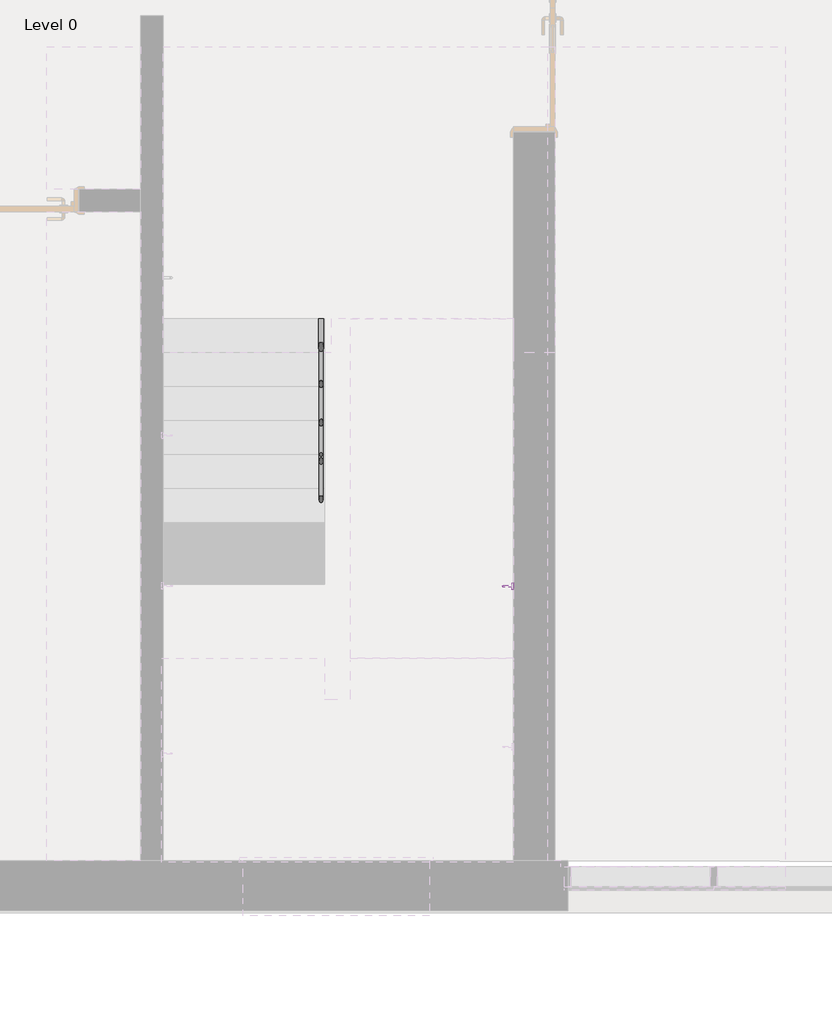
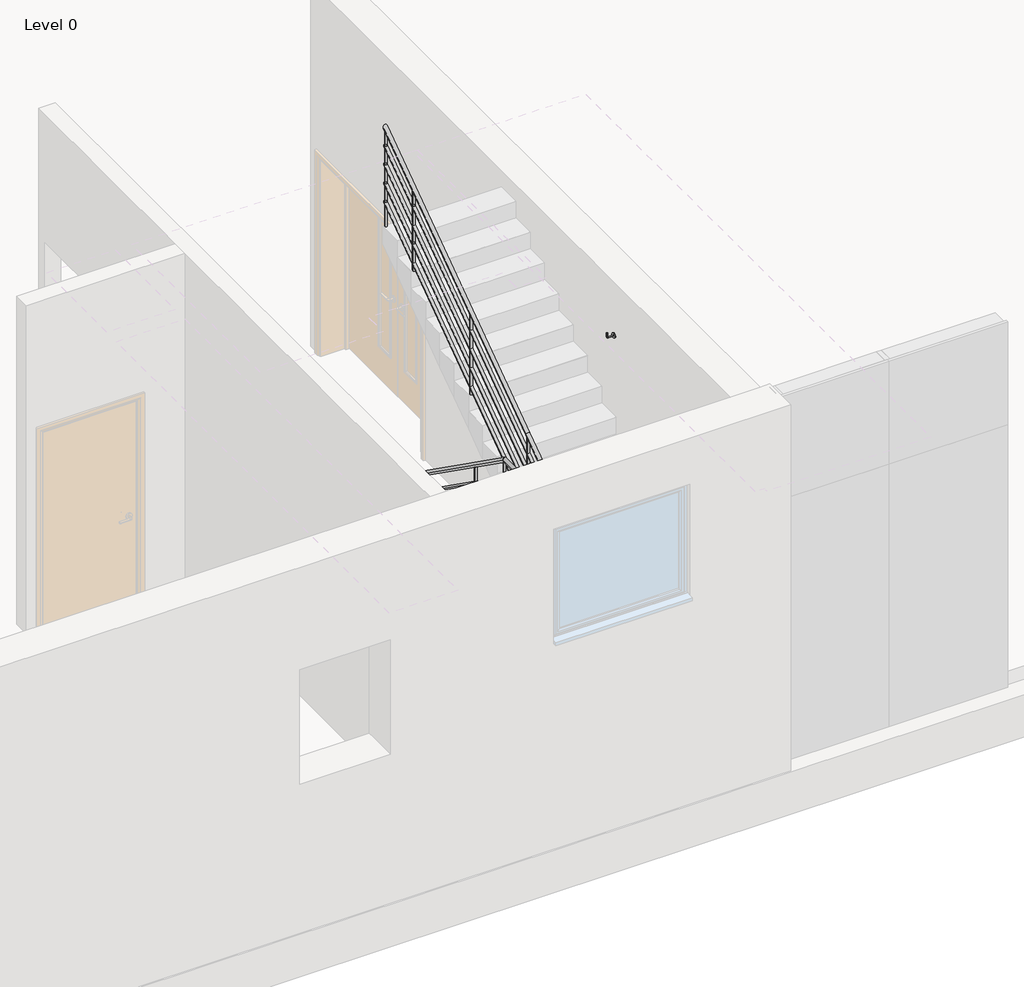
# One storey, part 11 of 14: 1 proxy, 1 railing.
"""IFC4 building model written with IfcOpenShell, lengths in millimetres."""

from ifc_helpers import new_model, si_unit, point, frame, frame_2d, origin, place, context, project, spatial, circle_curve, ellipse_curve, trimmed, segment, composite_curve, outline, extrude, transform, mapped, element, save
from ifc_brep_helpers import plane_surface, cylinder_surface, advanced_brep
from components import support_metal_circular_support_metal_circular_016e83f0

model = new_model("IFC4")

# Units and contexts
model_context = context("Model", 3, world=origin())
ifc_project = project(units=[si_unit("LENGTHUNIT", "METRE", prefix="MILLI")], contexts=[model_context])

# Site, building, storey
site = spatial("IfcSite", under=ifc_project)
building = spatial("IfcBuilding", under=site)
storey = spatial("IfcBuildingStorey", under=building, Name="Level 0", Elevation=0.0)

# Proxy
placement = place(None, origin())
support_metal_circular_support_metal_circular_shape = support_metal_circular_support_metal_circular_016e83f0(model_context)
element("IfcBuildingElementProxy", 1, Name="Support - Metal - Circular : Support - Metal - Circular", ObjectType="Support - Metal - Circular : Support - Metal - Circular", at=placement, inside=storey, context=model_context, shape_type="MappedRepresentation", body=[
    mapped(support_metal_circular_support_metal_circular_shape, transform((7761.8000023, 2330.7111848, 3386.0952038), x_axis=(0.0, -1.0, 0.0), y_axis=(1.0, 0.0, 0.0), z_axis=(0.0, 0.0, 1.0))),
])

# Railing
element("IfcRailing", 2, ObjectType="900mm_Pipe", at=placement, inside=storey, context=model_context, shape_type="SolidModel", body=[
    advanced_brep(
    [(6401.8000024, 4300.0, 1052.7548977), (6441.8000024, 4300.0, 1052.7548977), (6401.8000024, 1793.6287019, 2830.0), (6441.8000024, 1793.6287019, 2830.0), (6401.8000024, 1454.6, 2830.0), (6441.8000024, 1494.6, 2830.0), (6682.6000025, 1454.6, 2830.0), (6642.6000025, 1494.6, 2830.0), (6682.6000025, 1556.3712981, 2830.0), (6642.6000025, 1556.3712981, 2830.0), (6682.6000025, 1811.5685755, 3010.9580695), (6642.6000025, 1811.5685755, 3010.9580695), (6682.6000025, 4300.0, 4775.4821704), (6642.6000025, 4300.0, 4775.4821704)],
    [
        (0, 1, ellipse_curve(frame((6421.8000024, 4300.0, 1052.7548977), z_axis=(0.0, 1.0, 0.0), x_axis=(0.0, 0.0, -1.0)), 24.5178296, 20.0)),
        (1, 0, ellipse_curve(frame((6421.8000024, 4300.0, 1052.7548977), z_axis=(0.0, 1.0, 0.0), x_axis=(0.0, 0.0, -1.0)), 24.5178296, 20.0)),
        (0, 2),
        (2, 3, ellipse_curve(frame((6421.8000024, 1793.6287019, 2830.0), z_axis=(0.0, 0.9528202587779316, -0.30353509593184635), x_axis=(0.0, -0.30353509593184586, -0.952820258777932)), 20.9903178, 20.0)),
        (3, 1),
        (3, 2, ellipse_curve(frame((6421.8000024, 1793.6287019, 2830.0), z_axis=(0.0, 0.9528202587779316, -0.30353509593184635), x_axis=(0.0, -0.30353509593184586, -0.952820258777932)), 20.9903178, 20.0)),
        (2, 4),
        (4, 5, ellipse_curve(frame((6421.8000024, 1474.6, 2830.0), z_axis=(-0.7071067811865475, 0.7071067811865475, 0.0), x_axis=(0.7071067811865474, 0.7071067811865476, 0.0)), 28.2842712, 20.0)),
        (5, 3),
        (5, 4, ellipse_curve(frame((6421.8000024, 1474.6, 2830.0), z_axis=(-0.7071067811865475, 0.7071067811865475, 0.0), x_axis=(0.7071067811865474, 0.7071067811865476, 0.0)), 28.2842712, 20.0)),
        (4, 6),
        (6, 7, ellipse_curve(frame((6662.6000025, 1474.6, 2830.0), z_axis=(-0.7071067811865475, -0.7071067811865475, 0.0), x_axis=(-0.7071067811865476, 0.7071067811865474, 0.0)), 28.2842712, 20.0)),
        (7, 5),
        (7, 6, ellipse_curve(frame((6662.6000025, 1474.6, 2830.0), z_axis=(-0.7071067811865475, -0.7071067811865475, 0.0), x_axis=(-0.7071067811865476, 0.7071067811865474, 0.0)), 28.2842712, 20.0)),
        (6, 8),
        (8, 9, ellipse_curve(frame((6662.6000025, 1556.3712981, 2830.0), z_axis=(0.0, -0.9528202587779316, -0.30353509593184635), x_axis=(0.0, -0.3035350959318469, 0.9528202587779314)), 20.9903178, 20.0)),
        (9, 7),
        (9, 8, ellipse_curve(frame((6662.6000025, 1556.3712981, 2830.0), z_axis=(0.0, -0.9528202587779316, -0.30353509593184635), x_axis=(0.0, -0.3035350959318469, 0.9528202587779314)), 20.9903178, 20.0)),
        (8, 10),
        (10, 11, circle_curve(frame((6662.6000025, 1811.5685755, 3010.9580695), z_axis=(0.0, -0.8157328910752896, -0.5784287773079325), x_axis=(-1.0, 0.0, 0.0)), 20.0)),
        (11, 9),
        (11, 10, circle_curve(frame((6662.6000025, 1811.5685755, 3010.9580695), z_axis=(0.0, -0.8157328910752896, -0.5784287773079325), x_axis=(-1.0, 0.0, 0.0)), 20.0)),
        (12, 13, ellipse_curve(frame((6662.6000025, 4300.0, 4775.4821704), z_axis=(0.0, 1.0, 0.0), x_axis=(0.0, 0.0, -1.0)), 24.5178296, 20.0)),
        (13, 12, ellipse_curve(frame((6662.6000025, 4300.0, 4775.4821704), z_axis=(0.0, 1.0, 0.0), x_axis=(0.0, 0.0, -1.0)), 24.5178296, 20.0)),
        (10, 12),
        (13, 11),
    ],
    [
        plane_surface(frame((6421.8000024, 4300.0, 1077.2727273), z_axis=(0.0, 1.0, 0.0), x_axis=(0.0, 0.0, -1.0))),
        cylinder_surface(frame((6421.8000024, 4288.4314245, 1060.9580695), z_axis=(0.0, 0.8157328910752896, -0.5784287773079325), x_axis=(1.0, 0.0, 0.0)), 20.0),
        cylinder_surface(frame((6421.8000024, 1800.0, 2830.0), z_axis=(0.0, 1.0, 0.0), x_axis=(1.0, 0.0, 0.0)), 20.0),
        cylinder_surface(frame((6421.8000024, 1474.6, 2830.0), z_axis=(-1.0, 0.0, 0.0), x_axis=(0.0, 1.0, 0.0)), 20.0),
        cylinder_surface(frame((6662.6000025, 1474.6, 2830.0), z_axis=(0.0, -1.0, 0.0), x_axis=(-1.0, 0.0, 0.0)), 20.0),
        cylinder_surface(frame((6662.6000025, 1561.5685755, 2833.6853422), z_axis=(0.0, -0.8157328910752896, -0.5784287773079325), x_axis=(-1.0, 0.0, 0.0)), 20.0),
        plane_surface(frame((6662.6000025, 4300.0, 4800.0), z_axis=(0.0, 1.0, 0.0), x_axis=(0.0, 0.0, 1.0))),
        cylinder_surface(frame((6662.6000025, 1811.5685755, 3010.9580695), z_axis=(0.0, -0.8157328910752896, -0.5784287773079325), x_axis=(-1.0, 0.0, 0.0)), 20.0),
    ],
    [
        (0, [[1, 2]]),
        (1, [[-1, 3, 4, 5]]),
        (1, [[-2, -5, 6, -3]]),
        (2, [[-4, 7, 8, 9]]),
        (2, [[-6, -9, 10, -7]]),
        (3, [[-8, 11, 12, 13]]),
        (3, [[-10, -13, 14, -11]]),
        (4, [[-12, 15, 16, 17]]),
        (4, [[-14, -17, 18, -15]]),
        (5, [[-16, 19, 20, 21]]),
        (5, [[-18, -21, 22, -19]]),
        (6, [[23, 24]]),
        (7, [[-20, 25, -24, 26]]),
        (7, [[-22, -26, -23, -25]]),
    ],
),
    advanced_brep(
    [(6406.8000024, 4300.0, 858.8843551), (6436.8000024, 4300.0, 858.8843551), (6406.8000024, 1800.0, 2631.6116278), (6436.8000024, 1800.0, 2631.6116278)],
    [
        (0, 1, ellipse_curve(frame((6421.8000024, 4300.0, 858.8843551), z_axis=(0.0, 1.0, 0.0), x_axis=(0.0, 0.0, -1.0)), 18.3883722, 15.0)),
        (1, 0, ellipse_curve(frame((6421.8000024, 4300.0, 858.8843551), z_axis=(0.0, 1.0, 0.0), x_axis=(0.0, 0.0, -1.0)), 18.3883722, 15.0)),
        (2, 3, ellipse_curve(frame((6421.8000024, 1800.0, 2631.6116278), z_axis=(0.0, -1.0, 0.0), x_axis=(0.0, 0.0, -1.0)), 18.3883722, 15.0)),
        (3, 2, ellipse_curve(frame((6421.8000024, 1800.0, 2631.6116278), z_axis=(0.0, -1.0, 0.0), x_axis=(0.0, 0.0, -1.0)), 18.3883722, 15.0)),
        (0, 2),
        (3, 1),
    ],
    [
        plane_surface(frame((6421.8000024, 4300.0, 877.2727273), z_axis=(0.0, 1.0, 0.0), x_axis=(0.0, 0.0, -1.0))),
        plane_surface(frame((6421.8000024, 1800.0, 2650.0), z_axis=(0.0, -1.0, 0.0), x_axis=(0.0, 0.0, -1.0))),
        cylinder_surface(frame((6421.8000024, 4291.3235683, 865.0367339), z_axis=(0.0, 0.8157328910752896, -0.5784287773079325), x_axis=(1.0, 0.0, 0.0)), 15.0),
    ],
    [
        (0, [[1, 2]]),
        (1, [[3, 4]]),
        (2, [[-1, 5, -4, 6]]),
        (2, [[-2, -6, -3, -5]]),
    ],
),
    advanced_brep(
    [(6406.8000024, 1800.0, 2635.0), (6436.8000024, 1800.0, 2635.0), (6406.8000024, 1489.6, 2635.0), (6436.8000024, 1489.6, 2635.0)],
    [
        (0, 1, circle_curve(frame((6421.8000024, 1800.0, 2635.0), z_axis=(0.0, 1.0, 0.0), x_axis=(1.0, 0.0, 0.0)), 15.0)),
        (1, 0, circle_curve(frame((6421.8000024, 1800.0, 2635.0), z_axis=(0.0, 1.0, 0.0), x_axis=(1.0, 0.0, 0.0)), 15.0)),
        (2, 3, circle_curve(frame((6421.8000024, 1489.6, 2635.0), z_axis=(0.0, -1.0, 0.0), x_axis=(1.0, 0.0, 0.0)), 15.0)),
        (3, 2, circle_curve(frame((6421.8000024, 1489.6, 2635.0), z_axis=(0.0, -1.0, 0.0), x_axis=(1.0, 0.0, 0.0)), 15.0)),
        (0, 2),
        (3, 1),
    ],
    [
        plane_surface(frame((6421.8000024, 1800.0, 2650.0), z_axis=(0.0, 1.0, 0.0), x_axis=(0.0, 0.0, -1.0))),
        plane_surface(frame((6421.8000024, 1489.6, 2650.0), z_axis=(0.0, -1.0, 0.0), x_axis=(0.0, 0.0, -1.0))),
        cylinder_surface(frame((6421.8000024, 1800.0, 2635.0), z_axis=(0.0, 1.0, 0.0), x_axis=(1.0, 0.0, 0.0)), 15.0),
    ],
    [
        (0, [[1, 2]]),
        (1, [[3, 4]]),
        (2, [[-1, 5, -4, 6]]),
        (2, [[-2, -6, -3, -5]]),
    ],
),
    advanced_brep(
    [(6406.8000024, 1459.6, 2635.0), (6406.8000024, 1489.6, 2635.0), (6647.6000025, 1459.6, 2635.0), (6647.6000025, 1489.6, 2635.0)],
    [
        (0, 1, circle_curve(frame((6406.8000024, 1474.6, 2635.0), z_axis=(-1.0, 0.0, 0.0), x_axis=(0.0, 1.0, 0.0)), 15.0)),
        (1, 0, circle_curve(frame((6406.8000024, 1474.6, 2635.0), z_axis=(-1.0, 0.0, 0.0), x_axis=(0.0, 1.0, 0.0)), 15.0)),
        (2, 3, circle_curve(frame((6647.6000025, 1474.6, 2635.0), z_axis=(1.0, 0.0, 0.0), x_axis=(0.0, 1.0, 0.0)), 15.0)),
        (3, 2, circle_curve(frame((6647.6000025, 1474.6, 2635.0), z_axis=(1.0, 0.0, 0.0), x_axis=(0.0, 1.0, 0.0)), 15.0)),
        (0, 2),
        (3, 1),
    ],
    [
        plane_surface(frame((6406.8000024, 1474.6, 2650.0), z_axis=(-1.0, 0.0, 0.0), x_axis=(0.0, 1.0, 0.0))),
        plane_surface(frame((6647.6000025, 1474.6, 2650.0), z_axis=(1.0, 0.0, 0.0), x_axis=(0.0, 1.0, 0.0))),
        cylinder_surface(frame((6406.8000024, 1474.6, 2635.0), z_axis=(-1.0, 0.0, 0.0), x_axis=(0.0, 1.0, 0.0)), 15.0),
    ],
    [
        (0, [[1, 2]]),
        (1, [[3, 4]]),
        (2, [[-1, 5, -4, 6]]),
        (2, [[-2, -6, -3, -5]]),
    ],
),
    advanced_brep(
    [(6677.6000025, 1459.6, 2635.0), (6647.6000025, 1459.6, 2635.0), (6677.6000025, 1554.7784736, 2635.0), (6647.6000025, 1554.7784736, 2635.0), (6677.6000025, 1800.0, 2808.8843551), (6647.6000025, 1800.0, 2808.8843551)],
    [
        (0, 1, circle_curve(frame((6662.6000025, 1459.6, 2635.0), z_axis=(0.0, -1.0, 0.0), x_axis=(-1.0, 0.0, 0.0)), 15.0)),
        (1, 0, circle_curve(frame((6662.6000025, 1459.6, 2635.0), z_axis=(0.0, -1.0, 0.0), x_axis=(-1.0, 0.0, 0.0)), 15.0)),
        (0, 2),
        (2, 3, ellipse_curve(frame((6662.6000025, 1554.7784736, 2635.0), z_axis=(0.0, -0.9528202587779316, -0.3035350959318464), x_axis=(0.0, -0.3035350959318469, 0.9528202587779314)), 15.7427383, 15.0)),
        (3, 1),
        (3, 2, ellipse_curve(frame((6662.6000025, 1554.7784736, 2635.0), z_axis=(0.0, -0.9528202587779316, -0.3035350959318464), x_axis=(0.0, -0.3035350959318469, 0.9528202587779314)), 15.7427383, 15.0)),
        (4, 5, ellipse_curve(frame((6662.6000025, 1800.0, 2808.8843551), z_axis=(0.0, 1.0, 0.0), x_axis=(0.0, 0.0, -1.0)), 18.3883722, 15.0)),
        (5, 4, ellipse_curve(frame((6662.6000025, 1800.0, 2808.8843551), z_axis=(0.0, 1.0, 0.0), x_axis=(0.0, 0.0, -1.0)), 18.3883722, 15.0)),
        (2, 4),
        (5, 3),
    ],
    [
        plane_surface(frame((6662.6000025, 1459.6, 2650.0), z_axis=(0.0, -1.0, 0.0), x_axis=(0.0, 0.0, 1.0))),
        cylinder_surface(frame((6662.6000025, 1459.6, 2635.0), z_axis=(0.0, -1.0, 0.0), x_axis=(-1.0, 0.0, 0.0)), 15.0),
        plane_surface(frame((6662.6000025, 1800.0, 2827.2727273), z_axis=(0.0, 1.0, 0.0), x_axis=(0.0, 0.0, 1.0))),
        cylinder_surface(frame((6662.6000025, 1558.6764317, 2637.7640066), z_axis=(0.0, -0.8157328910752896, -0.5784287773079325), x_axis=(-1.0, 0.0, 0.0)), 15.0),
    ],
    [
        (0, [[1, 2]]),
        (1, [[-1, 3, 4, 5]]),
        (1, [[-2, -5, 6, -3]]),
        (2, [[7, 8]]),
        (3, [[-4, 9, -8, 10]]),
        (3, [[-6, -10, -7, -9]]),
    ],
),
    advanced_brep(
    [(6677.6000025, 1800.0, 2808.8843551), (6647.6000025, 1800.0, 2808.8843551), (6677.6000025, 4300.0, 4581.6116278), (6647.6000025, 4300.0, 4581.6116278)],
    [
        (0, 1, ellipse_curve(frame((6662.6000025, 1800.0, 2808.8843551), z_axis=(0.0, -1.0, 0.0), x_axis=(0.0, 0.0, -1.0)), 18.3883722, 15.0)),
        (1, 0, ellipse_curve(frame((6662.6000025, 1800.0, 2808.8843551), z_axis=(0.0, -1.0, 0.0), x_axis=(0.0, 0.0, -1.0)), 18.3883722, 15.0)),
        (2, 3, ellipse_curve(frame((6662.6000025, 4300.0, 4581.6116278), z_axis=(0.0, 1.0, 0.0), x_axis=(0.0, 0.0, -1.0)), 18.3883722, 15.0)),
        (3, 2, ellipse_curve(frame((6662.6000025, 4300.0, 4581.6116278), z_axis=(0.0, 1.0, 0.0), x_axis=(0.0, 0.0, -1.0)), 18.3883722, 15.0)),
        (0, 2),
        (3, 1),
    ],
    [
        plane_surface(frame((6662.6000025, 1800.0, 2827.2727273), z_axis=(0.0, -1.0, 0.0), x_axis=(0.0, 0.0, 1.0))),
        plane_surface(frame((6662.6000025, 4300.0, 4600.0), z_axis=(0.0, 1.0, 0.0), x_axis=(0.0, 0.0, 1.0))),
        cylinder_surface(frame((6662.6000025, 1808.6764317, 2815.0367339), z_axis=(0.0, -0.8157328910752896, -0.5784287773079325), x_axis=(-1.0, 0.0, 0.0)), 15.0),
    ],
    [
        (0, [[1, 2]]),
        (1, [[3, 4]]),
        (2, [[-1, 5, -4, 6]]),
        (2, [[-2, -6, -3, -5]]),
    ],
),
    advanced_brep(
    [(6406.8000024, 4300.0, 658.8843551), (6436.8000024, 4300.0, 658.8843551), (6406.8000024, 1800.0, 2431.6116278), (6436.8000024, 1800.0, 2431.6116278)],
    [
        (0, 1, ellipse_curve(frame((6421.8000024, 4300.0, 658.8843551), z_axis=(0.0, 1.0, 0.0), x_axis=(0.0, 0.0, -1.0)), 18.3883722, 15.0)),
        (1, 0, ellipse_curve(frame((6421.8000024, 4300.0, 658.8843551), z_axis=(0.0, 1.0, 0.0), x_axis=(0.0, 0.0, -1.0)), 18.3883722, 15.0)),
        (2, 3, ellipse_curve(frame((6421.8000024, 1800.0, 2431.6116278), z_axis=(0.0, -1.0, 0.0), x_axis=(0.0, 0.0, -1.0)), 18.3883722, 15.0)),
        (3, 2, ellipse_curve(frame((6421.8000024, 1800.0, 2431.6116278), z_axis=(0.0, -1.0, 0.0), x_axis=(0.0, 0.0, -1.0)), 18.3883722, 15.0)),
        (0, 2),
        (3, 1),
    ],
    [
        plane_surface(frame((6421.8000024, 4300.0, 677.2727273), z_axis=(0.0, 1.0, 0.0), x_axis=(0.0, 0.0, -1.0))),
        plane_surface(frame((6421.8000024, 1800.0, 2450.0), z_axis=(0.0, -1.0, 0.0), x_axis=(0.0, 0.0, -1.0))),
        cylinder_surface(frame((6421.8000024, 4291.3235683, 665.0367339), z_axis=(0.0, 0.8157328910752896, -0.5784287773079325), x_axis=(1.0, 0.0, 0.0)), 15.0),
    ],
    [
        (0, [[1, 2]]),
        (1, [[3, 4]]),
        (2, [[-1, 5, -4, 6]]),
        (2, [[-2, -6, -3, -5]]),
    ],
),
    advanced_brep(
    [(6406.8000024, 1800.0, 2435.0), (6436.8000024, 1800.0, 2435.0), (6406.8000024, 1489.6, 2435.0), (6436.8000024, 1489.6, 2435.0)],
    [
        (0, 1, circle_curve(frame((6421.8000024, 1800.0, 2435.0), z_axis=(0.0, 1.0, 0.0), x_axis=(1.0, 0.0, 0.0)), 15.0)),
        (1, 0, circle_curve(frame((6421.8000024, 1800.0, 2435.0), z_axis=(0.0, 1.0, 0.0), x_axis=(1.0, 0.0, 0.0)), 15.0)),
        (2, 3, circle_curve(frame((6421.8000024, 1489.6, 2435.0), z_axis=(0.0, -1.0, 0.0), x_axis=(1.0, 0.0, 0.0)), 15.0)),
        (3, 2, circle_curve(frame((6421.8000024, 1489.6, 2435.0), z_axis=(0.0, -1.0, 0.0), x_axis=(1.0, 0.0, 0.0)), 15.0)),
        (0, 2),
        (3, 1),
    ],
    [
        plane_surface(frame((6421.8000024, 1800.0, 2450.0), z_axis=(0.0, 1.0, 0.0), x_axis=(0.0, 0.0, -1.0))),
        plane_surface(frame((6421.8000024, 1489.6, 2450.0), z_axis=(0.0, -1.0, 0.0), x_axis=(0.0, 0.0, -1.0))),
        cylinder_surface(frame((6421.8000024, 1800.0, 2435.0), z_axis=(0.0, 1.0, 0.0), x_axis=(1.0, 0.0, 0.0)), 15.0),
    ],
    [
        (0, [[1, 2]]),
        (1, [[3, 4]]),
        (2, [[-1, 5, -4, 6]]),
        (2, [[-2, -6, -3, -5]]),
    ],
),
    advanced_brep(
    [(6406.8000024, 1459.6, 2435.0), (6406.8000024, 1489.6, 2435.0), (6647.6000025, 1459.6, 2435.0), (6647.6000025, 1489.6, 2435.0)],
    [
        (0, 1, circle_curve(frame((6406.8000024, 1474.6, 2435.0), z_axis=(-1.0, 0.0, 0.0), x_axis=(0.0, 1.0, 0.0)), 15.0)),
        (1, 0, circle_curve(frame((6406.8000024, 1474.6, 2435.0), z_axis=(-1.0, 0.0, 0.0), x_axis=(0.0, 1.0, 0.0)), 15.0)),
        (2, 3, circle_curve(frame((6647.6000025, 1474.6, 2435.0), z_axis=(1.0, 0.0, 0.0), x_axis=(0.0, 1.0, 0.0)), 15.0)),
        (3, 2, circle_curve(frame((6647.6000025, 1474.6, 2435.0), z_axis=(1.0, 0.0, 0.0), x_axis=(0.0, 1.0, 0.0)), 15.0)),
        (0, 2),
        (3, 1),
    ],
    [
        plane_surface(frame((6406.8000024, 1474.6, 2450.0), z_axis=(-1.0, 0.0, 0.0), x_axis=(0.0, 1.0, 0.0))),
        plane_surface(frame((6647.6000025, 1474.6, 2450.0), z_axis=(1.0, 0.0, 0.0), x_axis=(0.0, 1.0, 0.0))),
        cylinder_surface(frame((6406.8000024, 1474.6, 2435.0), z_axis=(-1.0, 0.0, 0.0), x_axis=(0.0, 1.0, 0.0)), 15.0),
    ],
    [
        (0, [[1, 2]]),
        (1, [[3, 4]]),
        (2, [[-1, 5, -4, 6]]),
        (2, [[-2, -6, -3, -5]]),
    ],
),
    advanced_brep(
    [(6677.6000025, 1459.6, 2435.0), (6647.6000025, 1459.6, 2435.0), (6677.6000025, 1554.7784736, 2435.0), (6647.6000025, 1554.7784736, 2435.0), (6677.6000025, 1800.0, 2608.8843551), (6647.6000025, 1800.0, 2608.8843551)],
    [
        (0, 1, circle_curve(frame((6662.6000025, 1459.6, 2435.0), z_axis=(0.0, -1.0, 0.0), x_axis=(-1.0, 0.0, 0.0)), 15.0)),
        (1, 0, circle_curve(frame((6662.6000025, 1459.6, 2435.0), z_axis=(0.0, -1.0, 0.0), x_axis=(-1.0, 0.0, 0.0)), 15.0)),
        (0, 2),
        (2, 3, ellipse_curve(frame((6662.6000025, 1554.7784736, 2435.0), z_axis=(0.0, -0.9528202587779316, -0.3035350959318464), x_axis=(0.0, -0.3035350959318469, 0.9528202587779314)), 15.7427383, 15.0)),
        (3, 1),
        (3, 2, ellipse_curve(frame((6662.6000025, 1554.7784736, 2435.0), z_axis=(0.0, -0.9528202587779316, -0.3035350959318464), x_axis=(0.0, -0.3035350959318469, 0.9528202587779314)), 15.7427383, 15.0)),
        (4, 5, ellipse_curve(frame((6662.6000025, 1800.0, 2608.8843551), z_axis=(0.0, 1.0, 0.0), x_axis=(0.0, 0.0, -1.0)), 18.3883722, 15.0)),
        (5, 4, ellipse_curve(frame((6662.6000025, 1800.0, 2608.8843551), z_axis=(0.0, 1.0, 0.0), x_axis=(0.0, 0.0, -1.0)), 18.3883722, 15.0)),
        (2, 4),
        (5, 3),
    ],
    [
        plane_surface(frame((6662.6000025, 1459.6, 2450.0), z_axis=(0.0, -1.0, 0.0), x_axis=(0.0, 0.0, 1.0))),
        cylinder_surface(frame((6662.6000025, 1459.6, 2435.0), z_axis=(0.0, -1.0, 0.0), x_axis=(-1.0, 0.0, 0.0)), 15.0),
        plane_surface(frame((6662.6000025, 1800.0, 2627.2727273), z_axis=(0.0, 1.0, 0.0), x_axis=(0.0, 0.0, 1.0))),
        cylinder_surface(frame((6662.6000025, 1558.6764317, 2437.7640066), z_axis=(0.0, -0.8157328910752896, -0.5784287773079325), x_axis=(-1.0, 0.0, 0.0)), 15.0),
    ],
    [
        (0, [[1, 2]]),
        (1, [[-1, 3, 4, 5]]),
        (1, [[-2, -5, 6, -3]]),
        (2, [[7, 8]]),
        (3, [[-4, 9, -8, 10]]),
        (3, [[-6, -10, -7, -9]]),
    ],
),
    advanced_brep(
    [(6677.6000025, 1800.0, 2608.8843551), (6647.6000025, 1800.0, 2608.8843551), (6677.6000025, 4300.0, 4381.6116278), (6647.6000025, 4300.0, 4381.6116278)],
    [
        (0, 1, ellipse_curve(frame((6662.6000025, 1800.0, 2608.8843551), z_axis=(0.0, -1.0, 0.0), x_axis=(0.0, 0.0, -1.0)), 18.3883722, 15.0)),
        (1, 0, ellipse_curve(frame((6662.6000025, 1800.0, 2608.8843551), z_axis=(0.0, -1.0, 0.0), x_axis=(0.0, 0.0, -1.0)), 18.3883722, 15.0)),
        (2, 3, ellipse_curve(frame((6662.6000025, 4300.0, 4381.6116278), z_axis=(0.0, 1.0, 0.0), x_axis=(0.0, 0.0, -1.0)), 18.3883722, 15.0)),
        (3, 2, ellipse_curve(frame((6662.6000025, 4300.0, 4381.6116278), z_axis=(0.0, 1.0, 0.0), x_axis=(0.0, 0.0, -1.0)), 18.3883722, 15.0)),
        (0, 2),
        (3, 1),
    ],
    [
        plane_surface(frame((6662.6000025, 1800.0, 2627.2727273), z_axis=(0.0, -1.0, 0.0), x_axis=(0.0, 0.0, 1.0))),
        plane_surface(frame((6662.6000025, 4300.0, 4400.0), z_axis=(0.0, 1.0, 0.0), x_axis=(0.0, 0.0, 1.0))),
        cylinder_surface(frame((6662.6000025, 1808.6764317, 2615.0367339), z_axis=(0.0, -0.8157328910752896, -0.5784287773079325), x_axis=(-1.0, 0.0, 0.0)), 15.0),
    ],
    [
        (0, [[1, 2]]),
        (1, [[3, 4]]),
        (2, [[-1, 5, -4, 6]]),
        (2, [[-2, -6, -3, -5]]),
    ],
),
    advanced_brep(
    [(6406.8000024, 4300.0, 458.8843551), (6436.8000024, 4300.0, 458.8843551), (6406.8000024, 1800.0, 2231.6116278), (6436.8000024, 1800.0, 2231.6116278)],
    [
        (0, 1, ellipse_curve(frame((6421.8000024, 4300.0, 458.8843551), z_axis=(0.0, 1.0, 0.0), x_axis=(0.0, 0.0, -1.0)), 18.3883722, 15.0)),
        (1, 0, ellipse_curve(frame((6421.8000024, 4300.0, 458.8843551), z_axis=(0.0, 1.0, 0.0), x_axis=(0.0, 0.0, -1.0)), 18.3883722, 15.0)),
        (2, 3, ellipse_curve(frame((6421.8000024, 1800.0, 2231.6116278), z_axis=(0.0, -1.0, 0.0), x_axis=(0.0, 0.0, -1.0)), 18.3883722, 15.0)),
        (3, 2, ellipse_curve(frame((6421.8000024, 1800.0, 2231.6116278), z_axis=(0.0, -1.0, 0.0), x_axis=(0.0, 0.0, -1.0)), 18.3883722, 15.0)),
        (0, 2),
        (3, 1),
    ],
    [
        plane_surface(frame((6421.8000024, 4300.0, 477.2727273), z_axis=(0.0, 1.0, 0.0), x_axis=(0.0, 0.0, -1.0))),
        plane_surface(frame((6421.8000024, 1800.0, 2250.0), z_axis=(0.0, -1.0, 0.0), x_axis=(0.0, 0.0, -1.0))),
        cylinder_surface(frame((6421.8000024, 4291.3235683, 465.0367339), z_axis=(0.0, 0.8157328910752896, -0.5784287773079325), x_axis=(1.0, 0.0, 0.0)), 15.0),
    ],
    [
        (0, [[1, 2]]),
        (1, [[3, 4]]),
        (2, [[-1, 5, -4, 6]]),
        (2, [[-2, -6, -3, -5]]),
    ],
),
    advanced_brep(
    [(6406.8000024, 1800.0, 2235.0), (6436.8000024, 1800.0, 2235.0), (6406.8000024, 1489.6, 2235.0), (6436.8000024, 1489.6, 2235.0)],
    [
        (0, 1, circle_curve(frame((6421.8000024, 1800.0, 2235.0), z_axis=(0.0, 1.0, 0.0), x_axis=(1.0, 0.0, 0.0)), 15.0)),
        (1, 0, circle_curve(frame((6421.8000024, 1800.0, 2235.0), z_axis=(0.0, 1.0, 0.0), x_axis=(1.0, 0.0, 0.0)), 15.0)),
        (2, 3, circle_curve(frame((6421.8000024, 1489.6, 2235.0), z_axis=(0.0, -1.0, 0.0), x_axis=(1.0, 0.0, 0.0)), 15.0)),
        (3, 2, circle_curve(frame((6421.8000024, 1489.6, 2235.0), z_axis=(0.0, -1.0, 0.0), x_axis=(1.0, 0.0, 0.0)), 15.0)),
        (0, 2),
        (3, 1),
    ],
    [
        plane_surface(frame((6421.8000024, 1800.0, 2250.0), z_axis=(0.0, 1.0, 0.0), x_axis=(0.0, 0.0, -1.0))),
        plane_surface(frame((6421.8000024, 1489.6, 2250.0), z_axis=(0.0, -1.0, 0.0), x_axis=(0.0, 0.0, -1.0))),
        cylinder_surface(frame((6421.8000024, 1800.0, 2235.0), z_axis=(0.0, 1.0, 0.0), x_axis=(1.0, 0.0, 0.0)), 15.0),
    ],
    [
        (0, [[1, 2]]),
        (1, [[3, 4]]),
        (2, [[-1, 5, -4, 6]]),
        (2, [[-2, -6, -3, -5]]),
    ],
),
    advanced_brep(
    [(6406.8000024, 1459.6, 2235.0), (6406.8000024, 1489.6, 2235.0), (6647.6000025, 1459.6, 2235.0), (6647.6000025, 1489.6, 2235.0)],
    [
        (0, 1, circle_curve(frame((6406.8000024, 1474.6, 2235.0), z_axis=(-1.0, 0.0, 0.0), x_axis=(0.0, 1.0, 0.0)), 15.0)),
        (1, 0, circle_curve(frame((6406.8000024, 1474.6, 2235.0), z_axis=(-1.0, 0.0, 0.0), x_axis=(0.0, 1.0, 0.0)), 15.0)),
        (2, 3, circle_curve(frame((6647.6000025, 1474.6, 2235.0), z_axis=(1.0, 0.0, 0.0), x_axis=(0.0, 1.0, 0.0)), 15.0)),
        (3, 2, circle_curve(frame((6647.6000025, 1474.6, 2235.0), z_axis=(1.0, 0.0, 0.0), x_axis=(0.0, 1.0, 0.0)), 15.0)),
        (0, 2),
        (3, 1),
    ],
    [
        plane_surface(frame((6406.8000024, 1474.6, 2250.0), z_axis=(-1.0, 0.0, 0.0), x_axis=(0.0, 1.0, 0.0))),
        plane_surface(frame((6647.6000025, 1474.6, 2250.0), z_axis=(1.0, 0.0, 0.0), x_axis=(0.0, 1.0, 0.0))),
        cylinder_surface(frame((6406.8000024, 1474.6, 2235.0), z_axis=(-1.0, 0.0, 0.0), x_axis=(0.0, 1.0, 0.0)), 15.0),
    ],
    [
        (0, [[1, 2]]),
        (1, [[3, 4]]),
        (2, [[-1, 5, -4, 6]]),
        (2, [[-2, -6, -3, -5]]),
    ],
),
    advanced_brep(
    [(6677.6000025, 1459.6, 2235.0), (6647.6000025, 1459.6, 2235.0), (6677.6000025, 1554.7784736, 2235.0), (6647.6000025, 1554.7784736, 2235.0), (6677.6000025, 1800.0, 2408.8843551), (6647.6000025, 1800.0, 2408.8843551)],
    [
        (0, 1, circle_curve(frame((6662.6000025, 1459.6, 2235.0), z_axis=(0.0, -1.0, 0.0), x_axis=(-1.0, 0.0, 0.0)), 15.0)),
        (1, 0, circle_curve(frame((6662.6000025, 1459.6, 2235.0), z_axis=(0.0, -1.0, 0.0), x_axis=(-1.0, 0.0, 0.0)), 15.0)),
        (0, 2),
        (2, 3, ellipse_curve(frame((6662.6000025, 1554.7784736, 2235.0), z_axis=(0.0, -0.9528202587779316, -0.3035350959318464), x_axis=(0.0, -0.3035350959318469, 0.9528202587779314)), 15.7427383, 15.0)),
        (3, 1),
        (3, 2, ellipse_curve(frame((6662.6000025, 1554.7784736, 2235.0), z_axis=(0.0, -0.9528202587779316, -0.3035350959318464), x_axis=(0.0, -0.3035350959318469, 0.9528202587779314)), 15.7427383, 15.0)),
        (4, 5, ellipse_curve(frame((6662.6000025, 1800.0, 2408.8843551), z_axis=(0.0, 1.0, 0.0), x_axis=(0.0, 0.0, -1.0)), 18.3883722, 15.0)),
        (5, 4, ellipse_curve(frame((6662.6000025, 1800.0, 2408.8843551), z_axis=(0.0, 1.0, 0.0), x_axis=(0.0, 0.0, -1.0)), 18.3883722, 15.0)),
        (2, 4),
        (5, 3),
    ],
    [
        plane_surface(frame((6662.6000025, 1459.6, 2250.0), z_axis=(0.0, -1.0, 0.0), x_axis=(0.0, 0.0, 1.0))),
        cylinder_surface(frame((6662.6000025, 1459.6, 2235.0), z_axis=(0.0, -1.0, 0.0), x_axis=(-1.0, 0.0, 0.0)), 15.0),
        plane_surface(frame((6662.6000025, 1800.0, 2427.2727273), z_axis=(0.0, 1.0, 0.0), x_axis=(0.0, 0.0, 1.0))),
        cylinder_surface(frame((6662.6000025, 1558.6764317, 2237.7640066), z_axis=(0.0, -0.8157328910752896, -0.5784287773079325), x_axis=(-1.0, 0.0, 0.0)), 15.0),
    ],
    [
        (0, [[1, 2]]),
        (1, [[-1, 3, 4, 5]]),
        (1, [[-2, -5, 6, -3]]),
        (2, [[7, 8]]),
        (3, [[-4, 9, -8, 10]]),
        (3, [[-6, -10, -7, -9]]),
    ],
),
    advanced_brep(
    [(6677.6000025, 1800.0, 2408.8843551), (6647.6000025, 1800.0, 2408.8843551), (6677.6000025, 4300.0, 4181.6116278), (6647.6000025, 4300.0, 4181.6116278)],
    [
        (0, 1, ellipse_curve(frame((6662.6000025, 1800.0, 2408.8843551), z_axis=(0.0, -1.0, 0.0), x_axis=(0.0, 0.0, -1.0)), 18.3883722, 15.0)),
        (1, 0, ellipse_curve(frame((6662.6000025, 1800.0, 2408.8843551), z_axis=(0.0, -1.0, 0.0), x_axis=(0.0, 0.0, -1.0)), 18.3883722, 15.0)),
        (2, 3, ellipse_curve(frame((6662.6000025, 4300.0, 4181.6116278), z_axis=(0.0, 1.0, 0.0), x_axis=(0.0, 0.0, -1.0)), 18.3883722, 15.0)),
        (3, 2, ellipse_curve(frame((6662.6000025, 4300.0, 4181.6116278), z_axis=(0.0, 1.0, 0.0), x_axis=(0.0, 0.0, -1.0)), 18.3883722, 15.0)),
        (0, 2),
        (3, 1),
    ],
    [
        plane_surface(frame((6662.6000025, 1800.0, 2427.2727273), z_axis=(0.0, -1.0, 0.0), x_axis=(0.0, 0.0, 1.0))),
        plane_surface(frame((6662.6000025, 4300.0, 4200.0), z_axis=(0.0, 1.0, 0.0), x_axis=(0.0, 0.0, 1.0))),
        cylinder_surface(frame((6662.6000025, 1808.6764317, 2415.0367339), z_axis=(0.0, -0.8157328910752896, -0.5784287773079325), x_axis=(-1.0, 0.0, 0.0)), 15.0),
    ],
    [
        (0, [[1, 2]]),
        (1, [[3, 4]]),
        (2, [[-1, 5, -4, 6]]),
        (2, [[-2, -6, -3, -5]]),
    ],
),
    advanced_brep(
    [(6406.8000024, 4300.0, 258.8843551), (6436.8000024, 4300.0, 258.8843551), (6406.8000024, 1800.0, 2031.6116278), (6436.8000024, 1800.0, 2031.6116278)],
    [
        (0, 1, ellipse_curve(frame((6421.8000024, 4300.0, 258.8843551), z_axis=(0.0, 1.0, 0.0), x_axis=(0.0, 0.0, -1.0)), 18.3883722, 15.0)),
        (1, 0, ellipse_curve(frame((6421.8000024, 4300.0, 258.8843551), z_axis=(0.0, 1.0, 0.0), x_axis=(0.0, 0.0, -1.0)), 18.3883722, 15.0)),
        (2, 3, ellipse_curve(frame((6421.8000024, 1800.0, 2031.6116278), z_axis=(0.0, -1.0, 0.0), x_axis=(0.0, 0.0, -1.0)), 18.3883722, 15.0)),
        (3, 2, ellipse_curve(frame((6421.8000024, 1800.0, 2031.6116278), z_axis=(0.0, -1.0, 0.0), x_axis=(0.0, 0.0, -1.0)), 18.3883722, 15.0)),
        (0, 2),
        (3, 1),
    ],
    [
        plane_surface(frame((6421.8000024, 4300.0, 277.2727273), z_axis=(0.0, 1.0, 0.0), x_axis=(0.0, 0.0, -1.0))),
        plane_surface(frame((6421.8000024, 1800.0, 2050.0), z_axis=(0.0, -1.0, 0.0), x_axis=(0.0, 0.0, -1.0))),
        cylinder_surface(frame((6421.8000024, 4291.3235683, 265.0367339), z_axis=(0.0, 0.8157328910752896, -0.5784287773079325), x_axis=(1.0, 0.0, 0.0)), 15.0),
    ],
    [
        (0, [[1, 2]]),
        (1, [[3, 4]]),
        (2, [[-1, 5, -4, 6]]),
        (2, [[-2, -6, -3, -5]]),
    ],
),
    advanced_brep(
    [(6406.8000024, 1800.0, 2035.0), (6436.8000024, 1800.0, 2035.0), (6406.8000024, 1489.6, 2035.0), (6436.8000024, 1489.6, 2035.0)],
    [
        (0, 1, circle_curve(frame((6421.8000024, 1800.0, 2035.0), z_axis=(0.0, 1.0, 0.0), x_axis=(1.0, 0.0, 0.0)), 15.0)),
        (1, 0, circle_curve(frame((6421.8000024, 1800.0, 2035.0), z_axis=(0.0, 1.0, 0.0), x_axis=(1.0, 0.0, 0.0)), 15.0)),
        (2, 3, circle_curve(frame((6421.8000024, 1489.6, 2035.0), z_axis=(0.0, -1.0, 0.0), x_axis=(1.0, 0.0, 0.0)), 15.0)),
        (3, 2, circle_curve(frame((6421.8000024, 1489.6, 2035.0), z_axis=(0.0, -1.0, 0.0), x_axis=(1.0, 0.0, 0.0)), 15.0)),
        (0, 2),
        (3, 1),
    ],
    [
        plane_surface(frame((6421.8000024, 1800.0, 2050.0), z_axis=(0.0, 1.0, 0.0), x_axis=(0.0, 0.0, -1.0))),
        plane_surface(frame((6421.8000024, 1489.6, 2050.0), z_axis=(0.0, -1.0, 0.0), x_axis=(0.0, 0.0, -1.0))),
        cylinder_surface(frame((6421.8000024, 1800.0, 2035.0), z_axis=(0.0, 1.0, 0.0), x_axis=(1.0, 0.0, 0.0)), 15.0),
    ],
    [
        (0, [[1, 2]]),
        (1, [[3, 4]]),
        (2, [[-1, 5, -4, 6]]),
        (2, [[-2, -6, -3, -5]]),
    ],
),
    advanced_brep(
    [(6406.8000024, 1459.6, 2035.0), (6406.8000024, 1489.6, 2035.0), (6647.6000025, 1459.6, 2035.0), (6647.6000025, 1489.6, 2035.0)],
    [
        (0, 1, circle_curve(frame((6406.8000024, 1474.6, 2035.0), z_axis=(-1.0, 0.0, 0.0), x_axis=(0.0, 1.0, 0.0)), 15.0)),
        (1, 0, circle_curve(frame((6406.8000024, 1474.6, 2035.0), z_axis=(-1.0, 0.0, 0.0), x_axis=(0.0, 1.0, 0.0)), 15.0)),
        (2, 3, circle_curve(frame((6647.6000025, 1474.6, 2035.0), z_axis=(1.0, 0.0, 0.0), x_axis=(0.0, 1.0, 0.0)), 15.0)),
        (3, 2, circle_curve(frame((6647.6000025, 1474.6, 2035.0), z_axis=(1.0, 0.0, 0.0), x_axis=(0.0, 1.0, 0.0)), 15.0)),
        (0, 2),
        (3, 1),
    ],
    [
        plane_surface(frame((6406.8000024, 1474.6, 2050.0), z_axis=(-1.0, 0.0, 0.0), x_axis=(0.0, 1.0, 0.0))),
        plane_surface(frame((6647.6000025, 1474.6, 2050.0), z_axis=(1.0, 0.0, 0.0), x_axis=(0.0, 1.0, 0.0))),
        cylinder_surface(frame((6406.8000024, 1474.6, 2035.0), z_axis=(-1.0, 0.0, 0.0), x_axis=(0.0, 1.0, 0.0)), 15.0),
    ],
    [
        (0, [[1, 2]]),
        (1, [[3, 4]]),
        (2, [[-1, 5, -4, 6]]),
        (2, [[-2, -6, -3, -5]]),
    ],
),
    advanced_brep(
    [(6677.6000025, 1459.6, 2035.0), (6647.6000025, 1459.6, 2035.0), (6677.6000025, 1554.7784736, 2035.0), (6647.6000025, 1554.7784736, 2035.0), (6677.6000025, 1800.0, 2208.8843551), (6647.6000025, 1800.0, 2208.8843551)],
    [
        (0, 1, circle_curve(frame((6662.6000025, 1459.6, 2035.0), z_axis=(0.0, -1.0, 0.0), x_axis=(-1.0, 0.0, 0.0)), 15.0)),
        (1, 0, circle_curve(frame((6662.6000025, 1459.6, 2035.0), z_axis=(0.0, -1.0, 0.0), x_axis=(-1.0, 0.0, 0.0)), 15.0)),
        (0, 2),
        (2, 3, ellipse_curve(frame((6662.6000025, 1554.7784736, 2035.0), z_axis=(0.0, -0.9528202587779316, -0.3035350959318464), x_axis=(0.0, -0.3035350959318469, 0.9528202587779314)), 15.7427383, 15.0)),
        (3, 1),
        (3, 2, ellipse_curve(frame((6662.6000025, 1554.7784736, 2035.0), z_axis=(0.0, -0.9528202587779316, -0.3035350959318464), x_axis=(0.0, -0.3035350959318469, 0.9528202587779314)), 15.7427383, 15.0)),
        (4, 5, ellipse_curve(frame((6662.6000025, 1800.0, 2208.8843551), z_axis=(0.0, 1.0, 0.0), x_axis=(0.0, 0.0, -1.0)), 18.3883722, 15.0)),
        (5, 4, ellipse_curve(frame((6662.6000025, 1800.0, 2208.8843551), z_axis=(0.0, 1.0, 0.0), x_axis=(0.0, 0.0, -1.0)), 18.3883722, 15.0)),
        (2, 4),
        (5, 3),
    ],
    [
        plane_surface(frame((6662.6000025, 1459.6, 2050.0), z_axis=(0.0, -1.0, 0.0), x_axis=(0.0, 0.0, 1.0))),
        cylinder_surface(frame((6662.6000025, 1459.6, 2035.0), z_axis=(0.0, -1.0, 0.0), x_axis=(-1.0, 0.0, 0.0)), 15.0),
        plane_surface(frame((6662.6000025, 1800.0, 2227.2727273), z_axis=(0.0, 1.0, 0.0), x_axis=(0.0, 0.0, 1.0))),
        cylinder_surface(frame((6662.6000025, 1558.6764317, 2037.7640066), z_axis=(0.0, -0.8157328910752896, -0.5784287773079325), x_axis=(-1.0, 0.0, 0.0)), 15.0),
    ],
    [
        (0, [[1, 2]]),
        (1, [[-1, 3, 4, 5]]),
        (1, [[-2, -5, 6, -3]]),
        (2, [[7, 8]]),
        (3, [[-4, 9, -8, 10]]),
        (3, [[-6, -10, -7, -9]]),
    ],
),
    advanced_brep(
    [(6677.6000025, 1800.0, 2208.8843551), (6647.6000025, 1800.0, 2208.8843551), (6677.6000025, 4300.0, 3981.6116278), (6647.6000025, 4300.0, 3981.6116278)],
    [
        (0, 1, ellipse_curve(frame((6662.6000025, 1800.0, 2208.8843551), z_axis=(0.0, -1.0, 0.0), x_axis=(0.0, 0.0, -1.0)), 18.3883722, 15.0)),
        (1, 0, ellipse_curve(frame((6662.6000025, 1800.0, 2208.8843551), z_axis=(0.0, -1.0, 0.0), x_axis=(0.0, 0.0, -1.0)), 18.3883722, 15.0)),
        (2, 3, ellipse_curve(frame((6662.6000025, 4300.0, 3981.6116278), z_axis=(0.0, 1.0, 0.0), x_axis=(0.0, 0.0, -1.0)), 18.3883722, 15.0)),
        (3, 2, ellipse_curve(frame((6662.6000025, 4300.0, 3981.6116278), z_axis=(0.0, 1.0, 0.0), x_axis=(0.0, 0.0, -1.0)), 18.3883722, 15.0)),
        (0, 2),
        (3, 1),
    ],
    [
        plane_surface(frame((6662.6000025, 1800.0, 2227.2727273), z_axis=(0.0, -1.0, 0.0), x_axis=(0.0, 0.0, 1.0))),
        plane_surface(frame((6662.6000025, 4300.0, 4000.0), z_axis=(0.0, 1.0, 0.0), x_axis=(0.0, 0.0, 1.0))),
        cylinder_surface(frame((6662.6000025, 1808.6764317, 2215.0367339), z_axis=(0.0, -0.8157328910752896, -0.5784287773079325), x_axis=(-1.0, 0.0, 0.0)), 15.0),
    ],
    [
        (0, [[1, 2]]),
        (1, [[3, 4]]),
        (2, [[-1, 5, -4, 6]]),
        (2, [[-2, -6, -3, -5]]),
    ],
),
    advanced_brep(
    [(6650.1000025, 3800.0, 4396.4188863), (6675.1000025, 3800.0, 4396.4188863), (6675.1000025, 3800.0, 3545.4545455), (6650.1000025, 3800.0, 3545.4545455)],
    [
        (0, 1, ellipse_curve(frame((6662.6000025, 3800.0, 4396.4188863), z_axis=(0.0, 0.5784287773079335, -0.8157328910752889), x_axis=(0.0, 0.8157328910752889, 0.5784287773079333)), 15.3236435, 12.5)),
        (1, 2),
        (2, 3, circle_curve(frame((6662.6000025, 3800.0, 3545.4545455), z_axis=(0.0, 0.0, 1.0), x_axis=(1.0, 0.0, 0.0)), 12.5)),
        (3, 0),
        (3, 2, circle_curve(frame((6662.6000025, 3800.0, 3545.4545455), z_axis=(0.0, 0.0, 1.0), x_axis=(1.0, 0.0, 0.0)), 12.5)),
        (1, 0, ellipse_curve(frame((6662.6000025, 3800.0, 4396.4188863), z_axis=(0.0, 0.5784287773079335, -0.8157328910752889), x_axis=(0.0, 0.8157328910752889, 0.5784287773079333)), 15.3236435, 12.5)),
    ],
    [
        cylinder_surface(frame((6662.6000025, 3800.0, 3445.4545455), z_axis=(0.0, 0.0, 1.0), x_axis=(1.0, 0.0, 0.0)), 12.5),
        plane_surface(frame((6687.6000025, 3825.0, 4414.146159), z_axis=(0.0, -0.5784287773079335, 0.8157328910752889), x_axis=(-1.0, 0.0, 0.0))),
        plane_surface(frame((6687.6000025, 3775.0, 3545.4545455), z_axis=(0.0, 0.0, -1.0), x_axis=(-1.0, 0.0, 0.0))),
    ],
    [
        (0, [[1, 2, 3, 4]]),
        (0, [[5, -2, 6, -4]]),
        (1, [[-6, -1]]),
        (2, [[-5, -3]]),
    ],
),
    advanced_brep(
    [(6650.1000025, 2800.0, 3687.3279772), (6675.1000025, 2800.0, 3687.3279772), (6675.1000025, 2800.0, 2836.3636364), (6650.1000025, 2800.0, 2836.3636364)],
    [
        (0, 1, ellipse_curve(frame((6662.6000025, 2800.0, 3687.3279772), z_axis=(0.0, 0.5784287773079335, -0.8157328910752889), x_axis=(0.0, 0.8157328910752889, 0.5784287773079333)), 15.3236435, 12.5)),
        (1, 2),
        (2, 3, circle_curve(frame((6662.6000025, 2800.0, 2836.3636364), z_axis=(0.0, 0.0, 1.0), x_axis=(1.0, 0.0, 0.0)), 12.5)),
        (3, 0),
        (3, 2, circle_curve(frame((6662.6000025, 2800.0, 2836.3636364), z_axis=(0.0, 0.0, 1.0), x_axis=(1.0, 0.0, 0.0)), 12.5)),
        (1, 0, ellipse_curve(frame((6662.6000025, 2800.0, 3687.3279772), z_axis=(0.0, 0.5784287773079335, -0.8157328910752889), x_axis=(0.0, 0.8157328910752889, 0.5784287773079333)), 15.3236435, 12.5)),
    ],
    [
        cylinder_surface(frame((6662.6000025, 2800.0, 2736.3636364), z_axis=(0.0, 0.0, 1.0), x_axis=(1.0, 0.0, 0.0)), 12.5),
        plane_surface(frame((6687.6000025, 2825.0, 3705.0552499), z_axis=(0.0, -0.5784287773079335, 0.8157328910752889), x_axis=(-1.0, 0.0, 0.0))),
        plane_surface(frame((6687.6000025, 2775.0, 2836.3636364), z_axis=(0.0, 0.0, -1.0), x_axis=(-1.0, 0.0, 0.0))),
    ],
    [
        (0, [[1, 2, 3, 4]]),
        (0, [[5, -2, 6, -4]]),
        (1, [[-6, -1]]),
        (2, [[-5, -3]]),
    ],
),
    advanced_brep(
    [(6434.3000024, 2300.0, 2446.4188863), (6409.3000024, 2300.0, 2446.4188863), (6409.3000024, 2300.0, 1595.4545455), (6434.3000024, 2300.0, 1595.4545455)],
    [
        (0, 1, ellipse_curve(frame((6421.8000024, 2300.0, 2446.4188863), z_axis=(0.0, -0.5784287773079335, -0.8157328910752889), x_axis=(0.0, -0.8157328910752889, 0.5784287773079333)), 15.3236435, 12.5)),
        (1, 2),
        (2, 3, circle_curve(frame((6421.8000024, 2300.0, 1595.4545455), z_axis=(0.0, 0.0, 1.0), x_axis=(-1.0, 0.0, 0.0)), 12.5)),
        (3, 0),
        (3, 2, circle_curve(frame((6421.8000024, 2300.0, 1595.4545455), z_axis=(0.0, 0.0, 1.0), x_axis=(-1.0, 0.0, 0.0)), 12.5)),
        (1, 0, ellipse_curve(frame((6421.8000024, 2300.0, 2446.4188863), z_axis=(0.0, -0.5784287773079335, -0.8157328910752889), x_axis=(0.0, -0.8157328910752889, 0.5784287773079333)), 15.3236435, 12.5)),
    ],
    [
        cylinder_surface(frame((6421.8000024, 2300.0, 1495.4545455), z_axis=(0.0, 0.0, 1.0), x_axis=(-1.0, 0.0, 0.0)), 12.5),
        plane_surface(frame((6396.8000024, 2275.0, 2464.146159), z_axis=(0.0, 0.5784287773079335, 0.8157328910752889), x_axis=(1.0, 0.0, 0.0))),
        plane_surface(frame((6396.8000024, 2325.0, 1595.4545455), z_axis=(0.0, 0.0, -1.0), x_axis=(1.0, 0.0, 0.0))),
    ],
    [
        (0, [[1, 2, 3, 4]]),
        (0, [[5, -2, 6, -4]]),
        (1, [[-6, -1]]),
        (2, [[-5, -3]]),
    ],
),
    advanced_brep(
    [(6434.3000024, 3300.0, 1737.3279772), (6409.3000024, 3300.0, 1737.3279772), (6409.3000024, 3300.0, 886.3636364), (6434.3000024, 3300.0, 886.3636364)],
    [
        (0, 1, ellipse_curve(frame((6421.8000024, 3300.0, 1737.3279772), z_axis=(0.0, -0.5784287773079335, -0.8157328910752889), x_axis=(0.0, -0.8157328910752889, 0.5784287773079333)), 15.3236435, 12.5)),
        (1, 2),
        (2, 3, circle_curve(frame((6421.8000024, 3300.0, 886.3636364), z_axis=(0.0, 0.0, 1.0), x_axis=(-1.0, 0.0, 0.0)), 12.5)),
        (3, 0),
        (3, 2, circle_curve(frame((6421.8000024, 3300.0, 886.3636364), z_axis=(0.0, 0.0, 1.0), x_axis=(-1.0, 0.0, 0.0)), 12.5)),
        (1, 0, ellipse_curve(frame((6421.8000024, 3300.0, 1737.3279772), z_axis=(0.0, -0.5784287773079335, -0.8157328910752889), x_axis=(0.0, -0.8157328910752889, 0.5784287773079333)), 15.3236435, 12.5)),
    ],
    [
        cylinder_surface(frame((6421.8000024, 3300.0, 786.3636364), z_axis=(0.0, 0.0, 1.0), x_axis=(-1.0, 0.0, 0.0)), 12.5),
        plane_surface(frame((6396.8000024, 3275.0, 1755.0552499), z_axis=(0.0, 0.5784287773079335, 0.8157328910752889), x_axis=(1.0, 0.0, 0.0))),
        plane_surface(frame((6396.8000024, 3325.0, 886.3636364), z_axis=(0.0, 0.0, -1.0), x_axis=(1.0, 0.0, 0.0))),
    ],
    [
        (0, [[1, 2, 3, 4]]),
        (0, [[5, -2, 6, -4]]),
        (1, [[-6, -1]]),
        (2, [[-5, -3]]),
    ],
),
    advanced_brep(
    [(6650.1000025, 1800.0, 2978.2370681), (6675.1000025, 1800.0, 2978.2370681), (6675.1000025, 1800.0, 1950.0), (6650.1000025, 1800.0, 1950.0)],
    [
        (0, 1, ellipse_curve(frame((6662.6000025, 1800.0, 2978.2370681), z_axis=(0.0, 0.5784287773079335, -0.8157328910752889), x_axis=(0.0, 0.8157328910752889, 0.5784287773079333)), 15.3236435, 12.5)),
        (1, 2),
        (2, 3, circle_curve(frame((6662.6000025, 1800.0, 1950.0), z_axis=(0.0, 0.0, 1.0), x_axis=(1.0, 0.0, 0.0)), 12.5)),
        (3, 0),
        (3, 2, circle_curve(frame((6662.6000025, 1800.0, 1950.0), z_axis=(0.0, 0.0, 1.0), x_axis=(1.0, 0.0, 0.0)), 12.5)),
        (1, 0, ellipse_curve(frame((6662.6000025, 1800.0, 2978.2370681), z_axis=(0.0, 0.5784287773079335, -0.8157328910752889), x_axis=(0.0, 0.8157328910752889, 0.5784287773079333)), 15.3236435, 12.5)),
    ],
    [
        cylinder_surface(frame((6662.6000025, 1800.0, 1850.0), z_axis=(0.0, 0.0, 1.0), x_axis=(1.0, 0.0, 0.0)), 12.5),
        plane_surface(frame((6687.6000025, 1825.0, 2995.9643409), z_axis=(0.0, -0.5784287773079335, 0.8157328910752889), x_axis=(-1.0, 0.0, 0.0))),
        plane_surface(frame((6687.6000025, 1775.0, 1950.0), z_axis=(0.0, 0.0, -1.0), x_axis=(-1.0, 0.0, 0.0))),
    ],
    [
        (0, [[1, 2, 3, 4]]),
        (0, [[5, -2, 6, -4]]),
        (1, [[-6, -1]]),
        (2, [[-5, -3]]),
    ],
),
    extrude(outline(composite_curve([segment(trimmed(circle_curve(frame_2d((6662.6000025, 1474.6)), 12.5), [point((6662.6000025, 1462.1))], [point((6662.6000025, 1487.1))], False, "CARTESIAN"), True, "CONTINUOUS"), segment(trimmed(circle_curve(frame_2d((6662.6000025, 1474.6)), 12.5), [point((6662.6000025, 1487.1))], [point((6662.6000025, 1462.1))], False, "CARTESIAN"), True, "CONTINUOUS")], self_intersect=False)), frame((0.0, 0.0, 1950.0), z_axis=(0.0, 0.0, 1.0), x_axis=(1.0, 0.0, 0.0)), (0.0, 0.0, 1.0), 860.0),
    extrude(outline(composite_curve([segment(trimmed(circle_curve(frame_2d((6421.8000024, 1474.6)), 12.5), [point((6409.3000024, 1474.6))], [point((6434.3000024, 1474.6))], False, "CARTESIAN"), True, "CONTINUOUS"), segment(trimmed(circle_curve(frame_2d((6421.8000024, 1474.6)), 12.5), [point((6434.3000024, 1474.6))], [point((6409.3000024, 1474.6))], False, "CARTESIAN"), True, "CONTINUOUS")], self_intersect=False)), frame((0.0, 0.0, 1950.0), z_axis=(0.0, 0.0, 1.0), x_axis=(1.0, 0.0, 0.0)), (0.0, 0.0, 1.0), 860.0),
    advanced_brep(
    [(6434.3000024, 1800.0, 2800.9643409), (6409.3000024, 1800.0, 2800.9643409), (6409.3000024, 1800.0, 1950.0), (6434.3000024, 1800.0, 1950.0)],
    [
        (0, 1, ellipse_curve(frame((6421.8000024, 1800.0, 2800.9643409), z_axis=(0.0, -0.5784287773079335, -0.8157328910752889), x_axis=(0.0, -0.8157328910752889, 0.5784287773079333)), 15.3236435, 12.5)),
        (1, 2),
        (2, 3, circle_curve(frame((6421.8000024, 1800.0, 1950.0), z_axis=(0.0, 0.0, 1.0), x_axis=(-1.0, 0.0, 0.0)), 12.5)),
        (3, 0),
        (3, 2, circle_curve(frame((6421.8000024, 1800.0, 1950.0), z_axis=(0.0, 0.0, 1.0), x_axis=(-1.0, 0.0, 0.0)), 12.5)),
        (1, 0, ellipse_curve(frame((6421.8000024, 1800.0, 2800.9643409), z_axis=(0.0, -0.5784287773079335, -0.8157328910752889), x_axis=(0.0, -0.8157328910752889, 0.5784287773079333)), 15.3236435, 12.5)),
    ],
    [
        cylinder_surface(frame((6421.8000024, 1800.0, 1850.0), z_axis=(0.0, 0.0, 1.0), x_axis=(-1.0, 0.0, 0.0)), 12.5),
        plane_surface(frame((6396.8000024, 1775.0, 2818.6916136), z_axis=(0.0, 0.5784287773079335, 0.8157328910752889), x_axis=(1.0, 0.0, 0.0))),
        plane_surface(frame((6396.8000024, 1825.0, 1950.0), z_axis=(0.0, 0.0, -1.0), x_axis=(1.0, 0.0, 0.0))),
    ],
    [
        (0, [[1, 2, 3, 4]]),
        (0, [[5, -2, 6, -4]]),
        (1, [[-6, -1]]),
        (2, [[-5, -3]]),
    ],
),
    advanced_brep(
    [(6650.1000025, 4287.5, 4742.1007045), (6675.1000025, 4287.5, 4742.1007045), (6675.1000025, 4287.5, 3722.7272727), (6650.1000025, 4287.5, 3722.7272727)],
    [
        (0, 1, ellipse_curve(frame((6662.6000025, 4287.5, 4742.1007045), z_axis=(0.0, 0.5784287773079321, -0.81573289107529), x_axis=(0.0, 0.8157328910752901, 0.5784287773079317)), 15.3236435, 12.5)),
        (1, 2),
        (2, 3, circle_curve(frame((6662.6000025, 4287.5, 3722.7272727), z_axis=(0.0, 0.0, 1.0), x_axis=(1.0, 0.0, 0.0)), 12.5)),
        (3, 0),
        (3, 2, circle_curve(frame((6662.6000025, 4287.5, 3722.7272727), z_axis=(0.0, 0.0, 1.0), x_axis=(1.0, 0.0, 0.0)), 12.5)),
        (1, 0, ellipse_curve(frame((6662.6000025, 4287.5, 4742.1007045), z_axis=(0.0, 0.5784287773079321, -0.81573289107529), x_axis=(0.0, 0.8157328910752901, 0.5784287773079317)), 15.3236435, 12.5)),
    ],
    [
        cylinder_surface(frame((6662.6000025, 4287.5, 3622.7272727), z_axis=(0.0, 0.0, 1.0), x_axis=(1.0, 0.0, 0.0)), 12.5),
        plane_surface(frame((6687.6000025, 4312.5, 4759.8279772), z_axis=(0.0, -0.5784287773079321, 0.81573289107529), x_axis=(-1.0, 0.0, 0.0))),
        plane_surface(frame((6687.6000025, 4262.5, 3722.7272727), z_axis=(0.0, 0.0, -1.0), x_axis=(-1.0, 0.0, 0.0))),
    ],
    [
        (0, [[1, 2, 3, 4]]),
        (0, [[5, -2, 6, -4]]),
        (1, [[-6, -1]]),
        (2, [[-5, -3]]),
    ],
),
    advanced_brep(
    [(6434.3000024, 4287.5, 1037.1007045), (6409.3000024, 4287.5, 1037.1007045), (6409.3000024, 4287.5, 177.2727273), (6434.3000024, 4287.5, 177.2727273)],
    [
        (0, 1, ellipse_curve(frame((6421.8000024, 4287.5, 1037.1007045), z_axis=(0.0, -0.5784287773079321, -0.81573289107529), x_axis=(0.0, -0.8157328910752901, 0.5784287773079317)), 15.3236435, 12.5)),
        (1, 2),
        (2, 3, circle_curve(frame((6421.8000024, 4287.5, 177.2727273), z_axis=(0.0, 0.0, 1.0), x_axis=(-1.0, 0.0, 0.0)), 12.5)),
        (3, 0),
        (3, 2, circle_curve(frame((6421.8000024, 4287.5, 177.2727273), z_axis=(0.0, 0.0, 1.0), x_axis=(-1.0, 0.0, 0.0)), 12.5)),
        (1, 0, ellipse_curve(frame((6421.8000024, 4287.5, 1037.1007045), z_axis=(0.0, -0.5784287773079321, -0.81573289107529), x_axis=(0.0, -0.8157328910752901, 0.5784287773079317)), 15.3236435, 12.5)),
    ],
    [
        cylinder_surface(frame((6421.8000024, 4287.5, 77.2727273), z_axis=(0.0, 0.0, 1.0), x_axis=(-1.0, 0.0, 0.0)), 12.5),
        plane_surface(frame((6396.8000024, 4262.5, 1054.8279772), z_axis=(0.0, 0.5784287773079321, 0.81573289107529), x_axis=(1.0, 0.0, 0.0))),
        plane_surface(frame((6396.8000024, 4312.5, 177.2727273), z_axis=(0.0, 0.0, -1.0), x_axis=(1.0, 0.0, 0.0))),
    ],
    [
        (0, [[1, 2, 3, 4]]),
        (0, [[5, -2, 6, -4]]),
        (1, [[-6, -1]]),
        (2, [[-5, -3]]),
    ],
),
])

save(model, "model.ifc")
